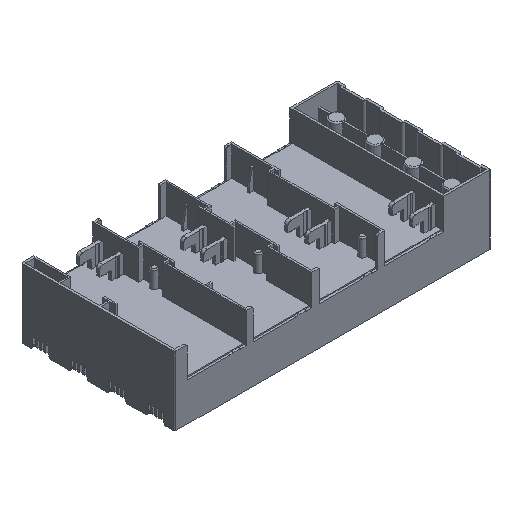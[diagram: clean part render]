
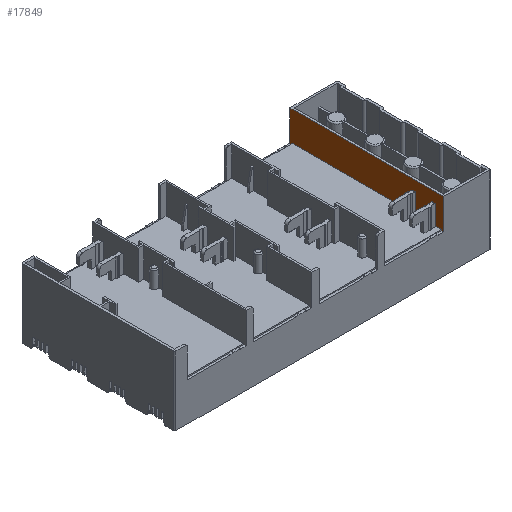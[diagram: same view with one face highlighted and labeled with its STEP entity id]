
A CAD part, isometric view. The second image highlights one B-rep face of the part: STEP entity #17849.
In plain terms, the highlighted planar face has unit normal (-1, 0, 0).
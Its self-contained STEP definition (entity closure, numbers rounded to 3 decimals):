
#315 = EDGE_CURVE ( 'NONE', #28296, #38879, #55148, .T. ) ;
#538 = CARTESIAN_POINT ( 'NONE',  ( 187., 138., -27. ) ) ;
#1362 = CARTESIAN_POINT ( 'NONE',  ( 187., 140., 0. ) ) ;
#1604 = ORIENTED_EDGE ( 'NONE', *, *, #36501, .T. ) ;
#2475 = CARTESIAN_POINT ( 'NONE',  ( 187., 105., -28. ) ) ;
#5686 = CARTESIAN_POINT ( 'NONE',  ( 187., 0., 0. ) ) ;
#7631 = CARTESIAN_POINT ( 'NONE',  ( 187., 138., 287.884 ) ) ;
#15399 = LINE ( 'NONE', #65509, #110894 ) ;
#16940 = DIRECTION ( 'NONE',  ( 0., 0., -1. ) ) ;
#17849 = ADVANCED_FACE ( 'NONE', ( #21823 ), #47698, .T. ) ;
#18794 = EDGE_CURVE ( 'NONE', #35608, #62989, #90988, .T. ) ;
#19257 = DIRECTION ( 'NONE',  ( 0., 1., 0. ) ) ;
#21557 = ORIENTED_EDGE ( 'NONE', *, *, #36948, .T. ) ;
#21823 = FACE_OUTER_BOUND ( 'NONE', #85851, .T. ) ;
#23061 = CARTESIAN_POINT ( 'NONE',  ( 187., 0., -28. ) ) ;
#25283 = LINE ( 'NONE', #101821, #116387 ) ;
#26978 = VECTOR ( 'NONE', #35478, 1000. ) ;
#28296 = VERTEX_POINT ( 'NONE', #78079 ) ;
#29082 = EDGE_CURVE ( 'NONE', #30746, #81962, #25283, .T. ) ;
#29679 = ORIENTED_EDGE ( 'NONE', *, *, #95754, .T. ) ;
#30746 = VERTEX_POINT ( 'NONE', #50862 ) ;
#35004 = CARTESIAN_POINT ( 'NONE',  ( 187., 0., -28. ) ) ;
#35478 = DIRECTION ( 'NONE',  ( 0., 0., 1. ) ) ;
#35608 = VERTEX_POINT ( 'NONE', #107884 ) ;
#36501 = EDGE_CURVE ( 'NONE', #100999, #81962, #15399, .T. ) ;
#36948 = EDGE_CURVE ( 'NONE', #91495, #100999, #118057, .T. ) ;
#38879 = VERTEX_POINT ( 'NONE', #35004 ) ;
#42337 = EDGE_CURVE ( 'NONE', #35608, #28296, #106201, .T. ) ;
#42753 = ORIENTED_EDGE ( 'NONE', *, *, #42337, .T. ) ;
#47698 = PLANE ( 'NONE',  #97315 ) ;
#50862 = CARTESIAN_POINT ( 'NONE',  ( 187., 138., -28. ) ) ;
#54884 = EDGE_CURVE ( 'NONE', #30746, #62989, #76128, .T. ) ;
#55148 = LINE ( 'NONE', #86728, #110200 ) ;
#56064 = ORIENTED_EDGE ( 'NONE', *, *, #315, .T. ) ;
#58246 = DIRECTION ( 'NONE',  ( 0., 0., 1. ) ) ;
#59205 = ORIENTED_EDGE ( 'NONE', *, *, #29082, .F. ) ;
#62989 = VERTEX_POINT ( 'NONE', #538 ) ;
#65509 = CARTESIAN_POINT ( 'NONE',  ( 187., 140., 39.36 ) ) ;
#65559 = DIRECTION ( 'NONE',  ( -1., 0., 0. ) ) ;
#67094 = VECTOR ( 'NONE', #16940, 1000. ) ;
#67750 = DIRECTION ( 'NONE',  ( 0., -1., 0. ) ) ;
#76128 = LINE ( 'NONE', #7631, #26978 ) ;
#78079 = CARTESIAN_POINT ( 'NONE',  ( 187., 2., -28. ) ) ;
#78969 = VECTOR ( 'NONE', #119158, 1000. ) ;
#81642 = CARTESIAN_POINT ( 'NONE',  ( 187., 2., 287.884 ) ) ;
#81962 = VERTEX_POINT ( 'NONE', #103130 ) ;
#82924 = DIRECTION ( 'NONE',  ( 0., 0., -1. ) ) ;
#83661 = VECTOR ( 'NONE', #58246, 1000. ) ;
#85851 = EDGE_LOOP ( 'NONE', ( #107972, #42753, #56064, #29679, #21557, #1604, #59205, #87087 ) ) ;
#86728 = CARTESIAN_POINT ( 'NONE',  ( 187., 105., -28. ) ) ;
#87087 = ORIENTED_EDGE ( 'NONE', *, *, #54884, .T. ) ;
#87903 = DIRECTION ( 'NONE',  ( 0., 1., 0. ) ) ;
#90988 = LINE ( 'NONE', #106105, #105495 ) ;
#91495 = VERTEX_POINT ( 'NONE', #5686 ) ;
#95754 = EDGE_CURVE ( 'NONE', #38879, #91495, #108276, .T. ) ;
#97315 = AXIS2_PLACEMENT_3D ( 'NONE', #2475, #65559, #112846 ) ;
#100999 = VERTEX_POINT ( 'NONE', #1362 ) ;
#101821 = CARTESIAN_POINT ( 'NONE',  ( 187., 52.5, -28. ) ) ;
#103130 = CARTESIAN_POINT ( 'NONE',  ( 187., 140., -28. ) ) ;
#105495 = VECTOR ( 'NONE', #87903, 1000. ) ;
#106105 = CARTESIAN_POINT ( 'NONE',  ( 187., -37.103, -27. ) ) ;
#106201 = LINE ( 'NONE', #81642, #67094 ) ;
#107884 = CARTESIAN_POINT ( 'NONE',  ( 187., 2., -27. ) ) ;
#107972 = ORIENTED_EDGE ( 'NONE', *, *, #18794, .F. ) ;
#108276 = LINE ( 'NONE', #23061, #83661 ) ;
#110200 = VECTOR ( 'NONE', #67750, 1000. ) ;
#110894 = VECTOR ( 'NONE', #82924, 1000. ) ;
#112846 = DIRECTION ( 'NONE',  ( 0., 0., 1. ) ) ;
#116387 = VECTOR ( 'NONE', #19257, 1000. ) ;
#118057 = LINE ( 'NONE', #118326, #78969 ) ;
#118326 = CARTESIAN_POINT ( 'NONE',  ( 187., 105., 0. ) ) ;
#119158 = DIRECTION ( 'NONE',  ( 0., 1., 0. ) ) ;
